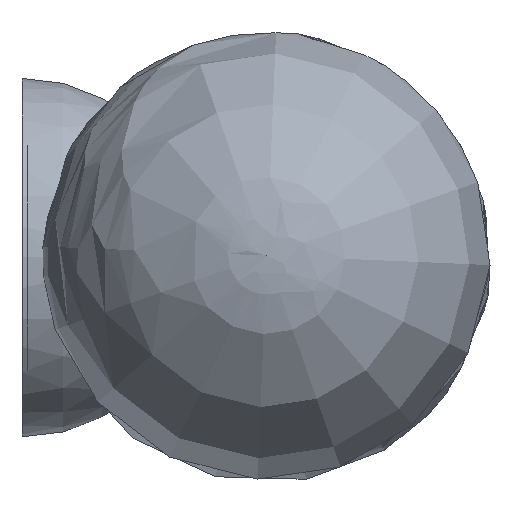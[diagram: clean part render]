
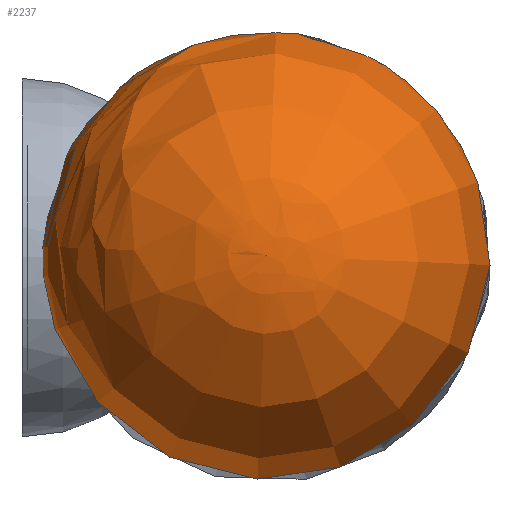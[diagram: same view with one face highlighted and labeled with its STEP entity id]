
A CAD part, top view. The second image highlights one B-rep face of the part: STEP entity #2237.
In plain terms, the highlighted free-form (B-spline) face has degree [2, 2] with [5, 9] control points.
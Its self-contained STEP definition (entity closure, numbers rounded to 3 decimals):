
#30=(
BOUNDED_SURFACE()
B_SPLINE_SURFACE(2,2,((#3936,#3937,#3938,#3939,#3940,#3941,#3942,#3943,
#3944),(#3945,#3946,#3947,#3948,#3949,#3950,#3951,#3952,#3953),(#3954,#3955,
#3956,#3957,#3958,#3959,#3960,#3961,#3962),(#3963,#3964,#3965,#3966,#3967,
#3968,#3969,#3970,#3971),(#3972,#3973,#3974,#3975,#3976,#3977,#3978,#3979,
#3980)),.UNSPECIFIED.,.F.,.T.,.F.)
B_SPLINE_SURFACE_WITH_KNOTS((3,2,3),(3,2,2,2,3),(-1.4,0.086,
1.572),(-3.142,-1.571,0.,1.571,
3.142),.UNSPECIFIED.)
GEOMETRIC_REPRESENTATION_ITEM()
RATIONAL_B_SPLINE_SURFACE(((1.,0.707,1.,0.707,1.,
0.707,1.,0.707,1.),(0.736,0.521,
0.736,0.521,0.736,0.521,
0.736,0.521,0.736),(1.,0.707,
1.,0.707,1.,0.707,1.,0.707,1.),(0.736,
0.521,0.736,0.521,0.736,
0.521,0.736,0.521,0.736),
(1.,0.707,1.,0.707,1.,0.707,1.,0.707,
1.)))
REPRESENTATION_ITEM('')
SURFACE()
);
#227=FACE_OUTER_BOUND('',#405,.T.);
#405=EDGE_LOOP('',(#1718,#1719,#1720));
#853=CIRCLE('',#2506,75.);
#854=CIRCLE('',#2507,12.845);
#1042=VERTEX_POINT('',#3981);
#1043=VERTEX_POINT('',#3982);
#1286=EDGE_CURVE('',#1042,#1043,#853,.T.);
#1287=EDGE_CURVE('',#1043,#1043,#854,.T.);
#1718=ORIENTED_EDGE('',*,*,#1286,.T.);
#1719=ORIENTED_EDGE('',*,*,#1287,.T.);
#1720=ORIENTED_EDGE('',*,*,#1286,.F.);
#2237=ADVANCED_FACE('',(#227),#30,.F.);
#2506=AXIS2_PLACEMENT_3D('',#3983,#3041,#3042);
#2507=AXIS2_PLACEMENT_3D('',#3984,#3043,#3044);
#3041=DIRECTION('center_axis',(0.329,-0.944,0.));
#3042=DIRECTION('ref_axis',(-0.944,-0.329,0.));
#3043=DIRECTION('center_axis',(0.,0.,
1.));
#3044=DIRECTION('ref_axis',(-0.329,0.944,0.));
#3936=CARTESIAN_POINT('Ctrl Pts',(69.872,-4.231,641.335));
#3937=CARTESIAN_POINT('Ctrl Pts',(74.104,-16.359,641.335));
#3938=CARTESIAN_POINT('Ctrl Pts',(86.231,-12.128,641.335));
#3939=CARTESIAN_POINT('Ctrl Pts',(98.359,-7.896,641.335));
#3940=CARTESIAN_POINT('Ctrl Pts',(94.128,4.231,641.335));
#3941=CARTESIAN_POINT('Ctrl Pts',(89.896,16.359,641.335));
#3942=CARTESIAN_POINT('Ctrl Pts',(77.769,12.128,641.335));
#3943=CARTESIAN_POINT('Ctrl Pts',(65.641,7.896,641.335));
#3944=CARTESIAN_POINT('Ctrl Pts',(69.872,-4.231,641.335));
#3945=CARTESIAN_POINT('Ctrl Pts',(5.752,-26.603,653.035));
#3946=CARTESIAN_POINT('Ctrl Pts',(32.355,-102.851,653.035));
#3947=CARTESIAN_POINT('Ctrl Pts',(108.603,-76.248,653.035));
#3948=CARTESIAN_POINT('Ctrl Pts',(184.851,-49.645,653.035));
#3949=CARTESIAN_POINT('Ctrl Pts',(158.248,26.603,653.035));
#3950=CARTESIAN_POINT('Ctrl Pts',(131.645,102.851,653.035));
#3951=CARTESIAN_POINT('Ctrl Pts',(55.397,76.248,653.035));
#3952=CARTESIAN_POINT('Ctrl Pts',(-20.851,49.645,653.035));
#3953=CARTESIAN_POINT('Ctrl Pts',(5.752,-26.603,653.035));
#3954=CARTESIAN_POINT('Ctrl Pts',(11.344,-24.652,721.691));
#3955=CARTESIAN_POINT('Ctrl Pts',(35.996,-95.308,721.691));
#3956=CARTESIAN_POINT('Ctrl Pts',(106.652,-70.656,721.691));
#3957=CARTESIAN_POINT('Ctrl Pts',(177.308,-46.004,721.691));
#3958=CARTESIAN_POINT('Ctrl Pts',(152.656,24.652,721.691));
#3959=CARTESIAN_POINT('Ctrl Pts',(128.004,95.308,721.691));
#3960=CARTESIAN_POINT('Ctrl Pts',(57.348,70.656,721.691));
#3961=CARTESIAN_POINT('Ctrl Pts',(-13.308,46.004,721.691));
#3962=CARTESIAN_POINT('Ctrl Pts',(11.344,-24.652,721.691));
#3963=CARTESIAN_POINT('Ctrl Pts',(16.935,-22.701,790.348));
#3964=CARTESIAN_POINT('Ctrl Pts',(39.636,-87.766,790.348));
#3965=CARTESIAN_POINT('Ctrl Pts',(104.701,-65.065,790.348));
#3966=CARTESIAN_POINT('Ctrl Pts',(169.766,-42.364,790.348));
#3967=CARTESIAN_POINT('Ctrl Pts',(147.065,22.701,790.348));
#3968=CARTESIAN_POINT('Ctrl Pts',(124.364,87.766,790.348));
#3969=CARTESIAN_POINT('Ctrl Pts',(59.299,65.065,790.348));
#3970=CARTESIAN_POINT('Ctrl Pts',(-5.766,42.364,790.348));
#3971=CARTESIAN_POINT('Ctrl Pts',(16.935,-22.701,790.348));
#3972=CARTESIAN_POINT('Ctrl Pts',(82.,0.,
790.246));
#3973=CARTESIAN_POINT('Ctrl Pts',(82.,0.,
790.246));
#3974=CARTESIAN_POINT('Ctrl Pts',(82.,0.,
790.246));
#3975=CARTESIAN_POINT('Ctrl Pts',(82.,0.,
790.246));
#3976=CARTESIAN_POINT('Ctrl Pts',(82.,0.,
790.246));
#3977=CARTESIAN_POINT('Ctrl Pts',(82.,0.,
790.246));
#3978=CARTESIAN_POINT('Ctrl Pts',(82.,0.,
790.246));
#3979=CARTESIAN_POINT('Ctrl Pts',(82.,0.,
790.246));
#3980=CARTESIAN_POINT('Ctrl Pts',(82.,0.,
790.246));
#3981=CARTESIAN_POINT('',(82.,0.,790.246));
#3982=CARTESIAN_POINT('',(69.872,-4.231,641.335));
#3983=CARTESIAN_POINT('Origin',(81.895,-0.036,715.246));
#3984=CARTESIAN_POINT('Origin',(82.,0.,641.335));
